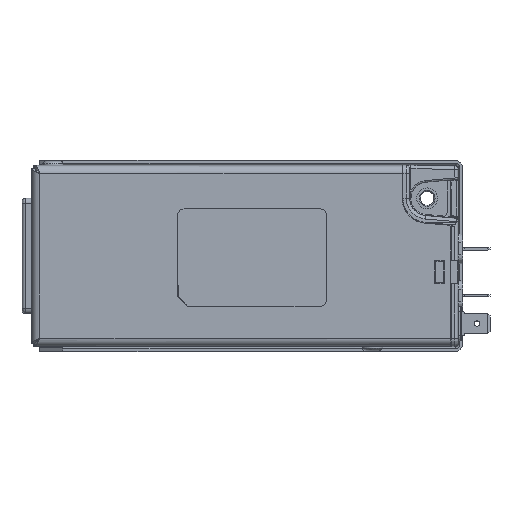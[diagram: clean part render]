
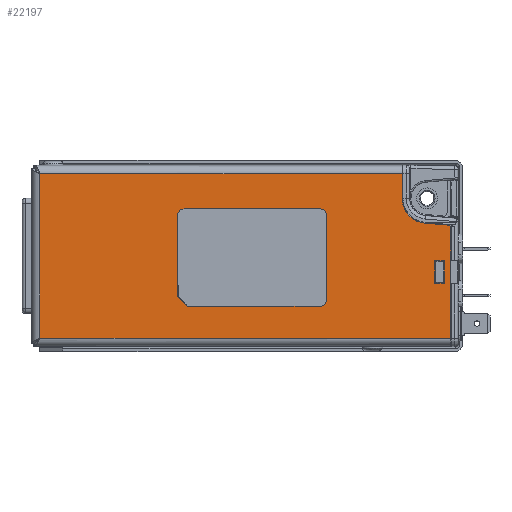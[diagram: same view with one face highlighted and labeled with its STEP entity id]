
A CAD part, top view. The second image highlights one B-rep face of the part: STEP entity #22197.
In plain terms, the highlighted planar face has unit normal (0, 0, 1).
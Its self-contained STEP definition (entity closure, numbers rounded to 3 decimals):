
#619=FACE_BOUND('',#7417,.T.);
#620=FACE_BOUND('',#7418,.T.);
#975=LINE('',#31651,#2920);
#976=LINE('',#31702,#2921);
#979=LINE('',#31738,#2924);
#1026=LINE('',#31835,#2971);
#1029=LINE('',#31840,#2974);
#1031=LINE('',#31844,#2976);
#1033=LINE('',#31847,#2978);
#1084=LINE('',#31950,#3029);
#1087=LINE('',#31955,#3032);
#1633=LINE('',#33832,#3578);
#1708=LINE('',#34014,#3653);
#1710=LINE('',#34021,#3655);
#1726=LINE('',#34129,#3671);
#2639=LINE('',#39360,#4584);
#2640=LINE('',#39364,#4585);
#2641=LINE('',#39368,#4586);
#2642=LINE('',#39372,#4587);
#2643=LINE('',#39373,#4588);
#2920=VECTOR('',#24845,10.);
#2921=VECTOR('',#24850,10.);
#2924=VECTOR('',#24859,10.);
#2971=VECTOR('',#24940,10.);
#2974=VECTOR('',#24945,10.);
#2976=VECTOR('',#24949,10.);
#2978=VECTOR('',#24953,10.);
#3029=VECTOR('',#25068,10.);
#3032=VECTOR('',#25073,10.);
#3578=VECTOR('',#26633,10.);
#3653=VECTOR('',#26748,10.);
#3655=VECTOR('',#26754,10.);
#3671=VECTOR('',#26806,10.);
#4584=VECTOR('',#30463,10.);
#4585=VECTOR('',#30466,10.);
#4586=VECTOR('',#30469,10.);
#4587=VECTOR('',#30472,10.);
#4588=VECTOR('',#30473,10.);
#6136=FACE_OUTER_BOUND('',#7416,.T.);
#7416=EDGE_LOOP('',(#19130,#19131,#19132,#19133,#19134,#19135,#19136,#19137));
#7417=EDGE_LOOP('',(#19138,#19139,#19140,#19141));
#7418=EDGE_LOOP('',(#19142,#19143,#19144,#19145,#19146,#19147,#19148,#19149,
#19150,#19151));
#7655=CIRCLE('',#22938,7.5);
#8173=CIRCLE('',#24325,2.);
#8174=CIRCLE('',#24326,2.);
#8175=CIRCLE('',#24327,2.);
#8397=VERTEX_POINT('',#31327);
#8400=VERTEX_POINT('',#31375);
#8481=VERTEX_POINT('',#31650);
#8484=VERTEX_POINT('',#31736);
#8516=VERTEX_POINT('',#31833);
#8517=VERTEX_POINT('',#31834);
#8518=VERTEX_POINT('',#31839);
#8519=VERTEX_POINT('',#31843);
#8530=VERTEX_POINT('',#31923);
#8537=VERTEX_POINT('',#31943);
#8539=VERTEX_POINT('',#31949);
#9028=VERTEX_POINT('',#33830);
#9115=VERTEX_POINT('',#34012);
#9118=VERTEX_POINT('',#34019);
#9122=VERTEX_POINT('',#34050);
#10039=VERTEX_POINT('',#39359);
#10040=VERTEX_POINT('',#39361);
#10041=VERTEX_POINT('',#39363);
#10042=VERTEX_POINT('',#39365);
#10043=VERTEX_POINT('',#39367);
#10044=VERTEX_POINT('',#39369);
#10045=VERTEX_POINT('',#39371);
#10406=EDGE_CURVE('',#8481,#8397,#975,.T.);
#10411=EDGE_CURVE('',#8397,#8400,#976,.T.);
#10415=EDGE_CURVE('',#8400,#8484,#979,.T.);
#10462=EDGE_CURVE('',#8516,#8517,#1026,.T.);
#10465=EDGE_CURVE('',#8518,#8516,#1029,.T.);
#10467=EDGE_CURVE('',#8519,#8518,#1031,.T.);
#10469=EDGE_CURVE('',#8517,#8519,#1033,.T.);
#10520=EDGE_CURVE('',#8539,#8537,#1084,.T.);
#10523=EDGE_CURVE('',#8530,#8539,#1087,.T.);
#11307=EDGE_CURVE('',#9028,#8484,#1633,.T.);
#11398=EDGE_CURVE('',#9115,#9028,#1708,.T.);
#11401=EDGE_CURVE('',#9115,#9118,#1710,.T.);
#11408=EDGE_CURVE('',#9118,#9122,#7655,.T.);
#11433=EDGE_CURVE('',#9122,#8481,#1726,.T.);
#13078=EDGE_CURVE('',#8537,#10039,#2639,.T.);
#13079=EDGE_CURVE('',#10039,#10040,#8173,.T.);
#13080=EDGE_CURVE('',#10040,#10041,#2640,.T.);
#13081=EDGE_CURVE('',#10041,#10042,#8174,.T.);
#13082=EDGE_CURVE('',#10042,#10043,#2641,.T.);
#13083=EDGE_CURVE('',#10043,#10044,#8175,.T.);
#13084=EDGE_CURVE('',#10044,#10045,#2642,.T.);
#13085=EDGE_CURVE('',#10045,#8530,#2643,.T.);
#19130=ORIENTED_EDGE('',*,*,#10411,.T.);
#19131=ORIENTED_EDGE('',*,*,#10415,.T.);
#19132=ORIENTED_EDGE('',*,*,#11307,.F.);
#19133=ORIENTED_EDGE('',*,*,#11398,.F.);
#19134=ORIENTED_EDGE('',*,*,#11401,.T.);
#19135=ORIENTED_EDGE('',*,*,#11408,.T.);
#19136=ORIENTED_EDGE('',*,*,#11433,.T.);
#19137=ORIENTED_EDGE('',*,*,#10406,.T.);
#19138=ORIENTED_EDGE('',*,*,#10462,.T.);
#19139=ORIENTED_EDGE('',*,*,#10469,.T.);
#19140=ORIENTED_EDGE('',*,*,#10467,.T.);
#19141=ORIENTED_EDGE('',*,*,#10465,.T.);
#19142=ORIENTED_EDGE('',*,*,#13078,.T.);
#19143=ORIENTED_EDGE('',*,*,#13079,.T.);
#19144=ORIENTED_EDGE('',*,*,#13080,.T.);
#19145=ORIENTED_EDGE('',*,*,#13081,.T.);
#19146=ORIENTED_EDGE('',*,*,#13082,.T.);
#19147=ORIENTED_EDGE('',*,*,#13083,.T.);
#19148=ORIENTED_EDGE('',*,*,#13084,.T.);
#19149=ORIENTED_EDGE('',*,*,#13085,.T.);
#19150=ORIENTED_EDGE('',*,*,#10523,.T.);
#19151=ORIENTED_EDGE('',*,*,#10520,.T.);
#19806=PLANE('',#24324);
#22197=ADVANCED_FACE('',(#6136,#619,#620),#19806,.T.);
#22938=AXIS2_PLACEMENT_3D('',#34052,#26764,#26765);
#24324=AXIS2_PLACEMENT_3D('',#39358,#30461,#30462);
#24325=AXIS2_PLACEMENT_3D('',#39362,#30464,#30465);
#24326=AXIS2_PLACEMENT_3D('',#39366,#30467,#30468);
#24327=AXIS2_PLACEMENT_3D('',#39370,#30470,#30471);
#24845=DIRECTION('',(-1.,0.,0.));
#24850=DIRECTION('',(0.,-1.,0.));
#24859=DIRECTION('',(1.,0.,0.));
#24940=DIRECTION('',(-1.,0.,0.));
#24945=DIRECTION('',(0.,-1.,0.));
#24949=DIRECTION('',(1.,0.,0.));
#24953=DIRECTION('',(0.,1.,0.));
#25068=DIRECTION('',(0.,1.,0.));
#25073=DIRECTION('',(-0.707,0.707,0.));
#26633=DIRECTION('',(0.,-1.,0.));
#26748=DIRECTION('',(0.676,-0.737,0.));
#26754=DIRECTION('',(-0.996,0.087,0.));
#26764=DIRECTION('center_axis',(0.,0.,
-1.));
#26765=DIRECTION('ref_axis',(-1.,0.,0.));
#26806=DIRECTION('',(0.,1.,0.));
#30461=DIRECTION('center_axis',(0.,0.,
1.));
#30462=DIRECTION('ref_axis',(0.,-1.,0.));
#30463=DIRECTION('',(0.,1.,0.));
#30464=DIRECTION('center_axis',(0.,0.,
-1.));
#30465=DIRECTION('ref_axis',(-0.707,0.707,0.));
#30466=DIRECTION('',(1.,0.,0.));
#30467=DIRECTION('center_axis',(0.,0.,
-1.));
#30468=DIRECTION('ref_axis',(0.707,0.707,0.));
#30469=DIRECTION('',(0.,-1.,0.));
#30470=DIRECTION('center_axis',(0.,0.,
-1.));
#30471=DIRECTION('ref_axis',(0.707,-0.707,0.));
#30472=DIRECTION('',(-1.,0.,0.));
#30473=DIRECTION('',(-0.707,0.707,0.));
#31327=CARTESIAN_POINT('',(-82.6,25.4,34.9));
#31375=CARTESIAN_POINT('',(-82.6,-25.4,34.9));
#31650=CARTESIAN_POINT('',(29.2,25.4,34.9));
#31651=CARTESIAN_POINT('',(11.875,25.4,34.9));
#31702=CARTESIAN_POINT('',(-82.6,-12.7,34.9));
#31736=CARTESIAN_POINT('',(44.2,-25.4,34.9));
#31738=CARTESIAN_POINT('',(-52.775,-25.4,34.9));
#31833=CARTESIAN_POINT('',(42.2,-8.5,34.9));
#31834=CARTESIAN_POINT('',(39.2,-8.5,34.9));
#31835=CARTESIAN_POINT('',(10.875,-8.5,34.9));
#31839=CARTESIAN_POINT('',(42.2,-1.5,34.9));
#31840=CARTESIAN_POINT('',(42.2,-0.75,34.9));
#31843=CARTESIAN_POINT('',(39.2,-1.5,34.9));
#31844=CARTESIAN_POINT('',(9.375,-1.5,34.9));
#31847=CARTESIAN_POINT('',(39.2,-4.25,34.9));
#31923=CARTESIAN_POINT('',(-37.625,-15.,34.9));
#31943=CARTESIAN_POINT('',(-40.1,-9.025,34.9));
#31949=CARTESIAN_POINT('',(-40.1,-12.525,34.9));
#31950=CARTESIAN_POINT('',(-40.1,-6.263,34.9));
#31955=CARTESIAN_POINT('',(-37.081,-15.544,34.9));
#33830=CARTESIAN_POINT('',(44.2,8.915,34.9));
#33832=CARTESIAN_POINT('',(44.2,27.9,34.9));
#34012=CARTESIAN_POINT('',(43.702,9.459,34.9));
#34014=CARTESIAN_POINT('',(31.542,22.729,34.9));
#34019=CARTESIAN_POINT('',(36.046,10.129,34.9));
#34021=CARTESIAN_POINT('',(12.529,12.186,34.9));
#34050=CARTESIAN_POINT('',(29.2,17.6,34.9));
#34052=CARTESIAN_POINT('Origin',(36.7,17.6,34.9));
#34129=CARTESIAN_POINT('',(29.2,8.8,34.9));
#39358=CARTESIAN_POINT('Origin',(-20.45,0.,
34.9));
#39359=CARTESIAN_POINT('',(-40.1,12.475,34.9));
#39360=CARTESIAN_POINT('',(-40.1,-7.763,34.9));
#39361=CARTESIAN_POINT('',(-38.1,14.475,34.9));
#39362=CARTESIAN_POINT('Origin',(-38.1,12.475,34.9));
#39363=CARTESIAN_POINT('',(3.9,14.475,34.9));
#39364=CARTESIAN_POINT('',(-30.275,14.475,34.9));
#39365=CARTESIAN_POINT('',(5.9,12.475,34.9));
#39366=CARTESIAN_POINT('Origin',(3.9,12.475,34.9));
#39367=CARTESIAN_POINT('',(5.9,-13.525,34.9));
#39368=CARTESIAN_POINT('',(5.9,7.237,34.9));
#39369=CARTESIAN_POINT('',(3.9,-15.525,34.9));
#39370=CARTESIAN_POINT('Origin',(3.9,-13.525,34.9));
#39371=CARTESIAN_POINT('',(-37.1,-15.525,34.9));
#39372=CARTESIAN_POINT('',(-7.275,-15.525,34.9));
#39373=CARTESIAN_POINT('',(-37.569,-15.056,34.9));
